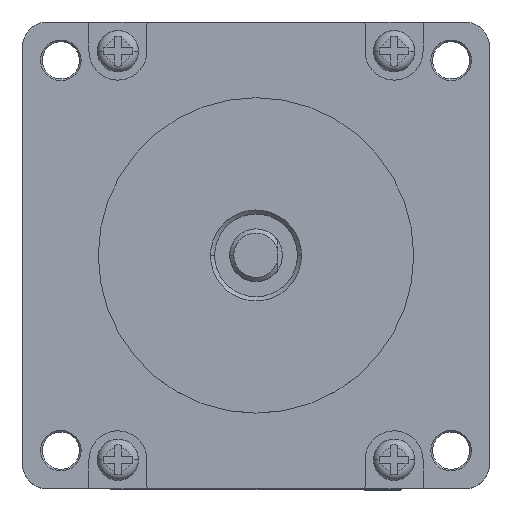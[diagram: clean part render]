
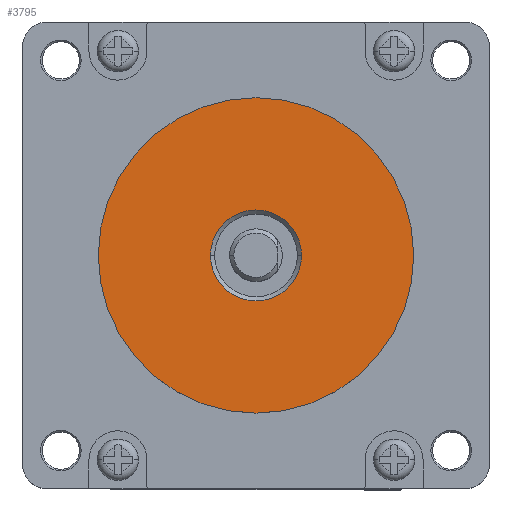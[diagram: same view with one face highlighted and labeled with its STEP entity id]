
A CAD part, top view. The second image highlights one B-rep face of the part: STEP entity #3795.
In plain terms, the highlighted planar face has unit normal (0, 0, 1).
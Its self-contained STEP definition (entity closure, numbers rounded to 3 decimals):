
#97 = EDGE_CURVE ( 'NONE', #5421, #5422, #2168, .T. ) ;
#108 = EDGE_CURVE ( 'NONE', #5404, #5412, #2184, .T. ) ;
#275 = EDGE_CURVE ( 'NONE', #5412, #5404, #2380, .T. ) ;
#281 = EDGE_CURVE ( 'NONE', #5422, #5421, #2389, .T. ) ;
#892 = DIRECTION ( 'NONE',  ( 1., 0., 0. ) ) ;
#893 = DIRECTION ( 'NONE',  ( 0., 0., 1. ) ) ;
#902 = CARTESIAN_POINT ( 'NONE',  ( 0., 0., 4.1 ) ) ;
#985 = DIRECTION ( 'NONE',  ( 1., 0., 0. ) ) ;
#996 = DIRECTION ( 'NONE',  ( 0., 0., -1. ) ) ;
#1051 = CARTESIAN_POINT ( 'NONE',  ( 0., 0., 4.1 ) ) ;
#1551 = DIRECTION ( 'NONE',  ( 0., 0., -1. ) ) ;
#1559 = CARTESIAN_POINT ( 'NONE',  ( 0., 0., 4.1 ) ) ;
#1603 = DIRECTION ( 'NONE',  ( 1., 0., 0. ) ) ;
#1667 = CARTESIAN_POINT ( 'NONE',  ( 0., 0., 4.1 ) ) ;
#1669 = DIRECTION ( 'NONE',  ( 1., 0., 0. ) ) ;
#1671 = DIRECTION ( 'NONE',  ( 0., 0., 1. ) ) ;
#2168 = CIRCLE ( 'NONE', #8141, 19.05 ) ;
#2184 = CIRCLE ( 'NONE', #8144, 5.5 ) ;
#2380 = CIRCLE ( 'NONE', #8223, 5.5 ) ;
#2389 = CIRCLE ( 'NONE', #8225, 19.05 ) ;
#3118 = CARTESIAN_POINT ( 'NONE',  ( 0., 0., 4.1 ) ) ;
#3119 = PLANE ( 'NONE',  #7194 ) ;
#3120 = DIRECTION ( 'NONE',  ( 0., 0., 1. ) ) ;
#3121 = DIRECTION ( 'NONE',  ( 1., 0., 0. ) ) ;
#3795 = ADVANCED_FACE ( 'NONE', ( #6232, #6237 ), #3119, .T. ) ;
#3950 = CARTESIAN_POINT ( 'NONE',  ( -5.5, 0., 4.1 ) ) ;
#3953 = CARTESIAN_POINT ( 'NONE',  ( 5.5, 0., 4.1 ) ) ;
#3968 = CARTESIAN_POINT ( 'NONE',  ( 19.05, 0., 4.1 ) ) ;
#3969 = CARTESIAN_POINT ( 'NONE',  ( -19.05, 0., 4.1 ) ) ;
#4764 = ORIENTED_EDGE ( 'NONE', *, *, #108, .T. ) ;
#4765 = ORIENTED_EDGE ( 'NONE', *, *, #275, .T. ) ;
#4766 = ORIENTED_EDGE ( 'NONE', *, *, #281, .T. ) ;
#4767 = ORIENTED_EDGE ( 'NONE', *, *, #97, .T. ) ;
#5404 = VERTEX_POINT ( 'NONE', #3953 ) ;
#5412 = VERTEX_POINT ( 'NONE', #3950 ) ;
#5421 = VERTEX_POINT ( 'NONE', #3968 ) ;
#5422 = VERTEX_POINT ( 'NONE', #3969 ) ;
#5689 = EDGE_LOOP ( 'NONE', ( #4766, #4767 ) ) ;
#5705 = EDGE_LOOP ( 'NONE', ( #4764, #4765 ) ) ;
#6232 = FACE_BOUND ( 'NONE', #5705, .T. ) ;
#6237 = FACE_OUTER_BOUND ( 'NONE', #5689, .T. ) ;
#7194 = AXIS2_PLACEMENT_3D ( 'NONE', #3118, #3120, #3121 ) ;
#8141 = AXIS2_PLACEMENT_3D ( 'NONE', #1667, #1671, #1669 ) ;
#8144 = AXIS2_PLACEMENT_3D ( 'NONE', #1559, #1551, #1603 ) ;
#8223 = AXIS2_PLACEMENT_3D ( 'NONE', #1051, #996, #985 ) ;
#8225 = AXIS2_PLACEMENT_3D ( 'NONE', #902, #893, #892 ) ;
